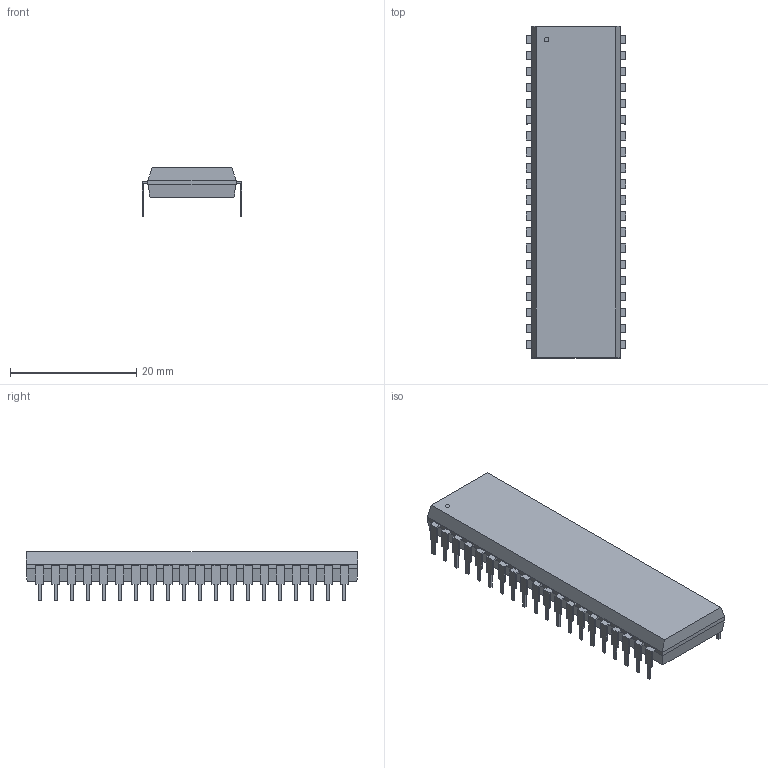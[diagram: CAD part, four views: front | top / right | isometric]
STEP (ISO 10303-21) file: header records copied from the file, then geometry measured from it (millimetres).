
FILE_DESCRIPTION(('STEP AP214'),'1');
FILE_NAME('PDIP-40','2026-09-24T02:29:19',(''),(''),'','','');
FILE_SCHEMA(('AUTOMOTIVE_DESIGN'));
Length unit declared in the file: millimetre
Products named in the file (1): product
Bounding box: 15.75 x 52.58 x 7.75 mm (x, y, z)
Volume: 3393.8 mm3; surface area: 2624.5 mm2
Topology: 42 solids, 42 shells, 497 faces, 1231 edges, 818 vertices
Faces by surface type: plane 496, cylinder 1
Full cylindrical faces by diameter (mm): 0.699 x1
Entity records: 13757 total; most frequent: ORIENTED_EDGE 2460, DIRECTION 2230, CARTESIAN_POINT 1319, EDGE_CURVE 1230, LINE 1228, VECTOR 1228, VERTEX_POINT 818, AXIS2_PLACEMENT_3D 501
